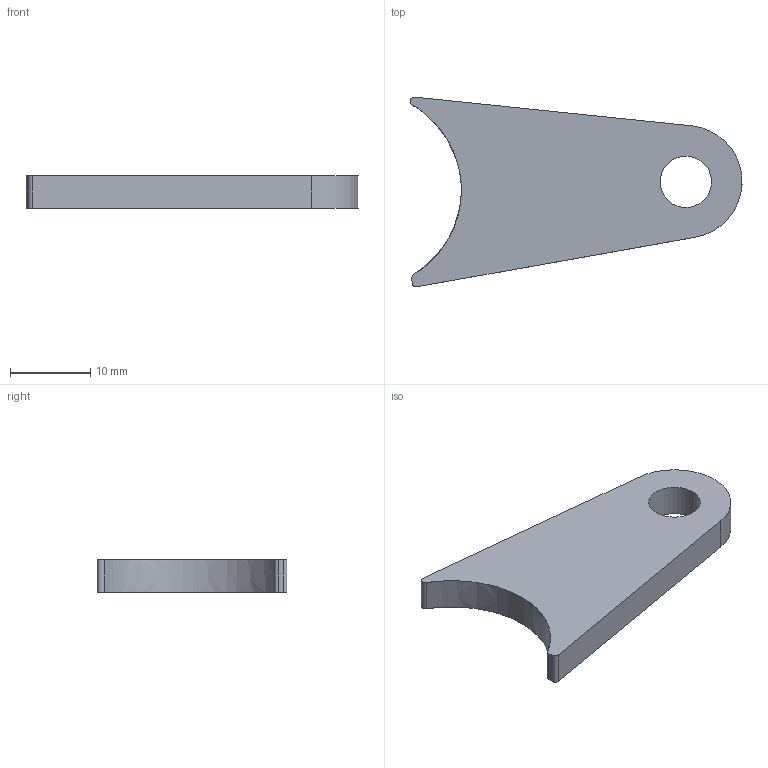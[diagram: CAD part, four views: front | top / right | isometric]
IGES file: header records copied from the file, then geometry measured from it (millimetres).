
Start section: START RECORD GO HERE.
Global section: file name: 20M_FU_FD.igs; native system: IBM CATIA IGES - CATIA Version 5 Release 19 ; preprocessor: CATIA Version 5 Release 19 ; author: alexb; organization: LAPTOP-PR6NE7IP; date: 20191216.212208; units: millimetre
Bounding box: 41.29 x 23.6 x 4 mm (x, y, z)
Surface area: 1750.5 mm2 (no closed solid volume)
Topology: 0 solids, 0 shells, 12 faces, 60 edges, 65 vertices
Faces by surface type: revolution 6, plane 5, extrusion 1
